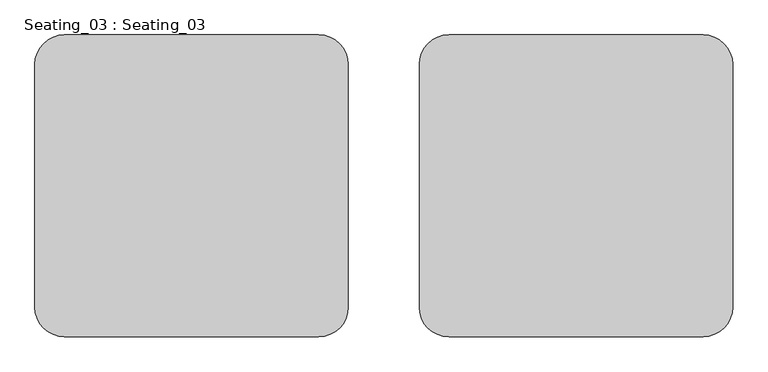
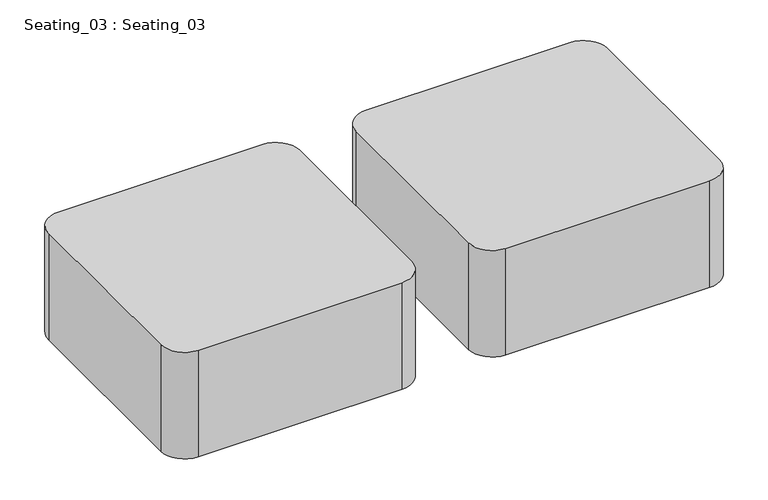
"""IFC4 building model written with IfcOpenShell, lengths in millimetres: furniture geometry, Seating_03 : Seating_03."""

from ifc_helpers import new_model, si_unit, point, frame, frame_2d, origin, place, context, project, spatial, polyline, circle_curve, trimmed, segment, composite_curve, outline, extrude, source, transform, mapped, element, save


def seating_03_seating_03_443b17d1(model_context):
    return source(origin(), model_context, "Body", "SweptSolid", [
        extrude(outline(composite_curve([segment(trimmed(circle_curve(frame_2d((817.8535683, 22202.5919371)), 100.0), [point((817.8535683, 22302.5919371))], [point((917.8535683, 22202.5919371))], False, "CARTESIAN"), True, "CONTINUOUS"), segment(polyline([(917.8535683, 22202.5919371), (917.8535683, 21382.5919371)]), True, "CONTINUOUS"), segment(trimmed(circle_curve(frame_2d((817.8535683, 21382.5919371)), 100.0), [point((917.8535683, 21382.5919371))], [point((817.8535683, 21282.5919371))], False, "CARTESIAN"), True, "CONTINUOUS"), segment(polyline([(817.8535683, 21282.5919371), (-42.1464317, 21282.5919371)]), True, "CONTINUOUS"), segment(trimmed(circle_curve(frame_2d((-42.1464317, 21382.5919371)), 100.0), [point((-42.1464317, 21282.5919371))], [point((-142.1464317, 21382.5919371))], False, "CARTESIAN"), True, "CONTINUOUS"), segment(polyline([(-142.1464317, 21382.5919371), (-142.1464317, 22202.5919371)]), True, "CONTINUOUS"), segment(trimmed(circle_curve(frame_2d((-42.1464317, 22202.5919371)), 100.0), [point((-142.1464317, 22202.5919371))], [point((-42.1464317, 22302.5919371))], False, "CARTESIAN"), True, "CONTINUOUS"), segment(polyline([(-42.1464317, 22302.5919371), (817.8535683, 22302.5919371)]), True, "CONTINUOUS")], self_intersect=False)), frame((0.0, 0.0, 3400.0), z_axis=(0.0, 0.0, 1.0), x_axis=(1.0, 0.0, 0.0)), (0.0, 0.0, 1.0), 476.2960418),
        extrude(outline(composite_curve([segment(trimmed(circle_curve(frame_2d((-482.1464317, 22202.5919371)), 100.0), [point((-482.1464317, 22302.5919371))], [point((-382.1464317, 22202.5919371))], False, "CARTESIAN"), True, "CONTINUOUS"), segment(polyline([(-382.1464317, 22202.5919371), (-382.1464317, 21382.5919371)]), True, "CONTINUOUS"), segment(trimmed(circle_curve(frame_2d((-482.1464317, 21382.5919371)), 100.0), [point((-382.1464317, 21382.5919371))], [point((-482.1464317, 21282.5919371))], False, "CARTESIAN"), True, "CONTINUOUS"), segment(polyline([(-482.1464317, 21282.5919371), (-1342.1464317, 21282.5919371)]), True, "CONTINUOUS"), segment(trimmed(circle_curve(frame_2d((-1342.1464317, 21382.5919371)), 100.0), [point((-1342.1464317, 21282.5919371))], [point((-1442.1464317, 21382.5919371))], False, "CARTESIAN"), True, "CONTINUOUS"), segment(polyline([(-1442.1464317, 21382.5919371), (-1442.1464317, 22202.5919371)]), True, "CONTINUOUS"), segment(trimmed(circle_curve(frame_2d((-1342.1464317, 22202.5919371)), 100.0), [point((-1442.1464317, 22202.5919371))], [point((-1342.1464317, 22302.5919371))], False, "CARTESIAN"), True, "CONTINUOUS"), segment(polyline([(-1342.1464317, 22302.5919371), (-482.1464317, 22302.5919371)]), True, "CONTINUOUS")], self_intersect=False)), frame((0.0, 0.0, 3400.0), z_axis=(0.0, 0.0, 1.0), x_axis=(1.0, 0.0, 0.0)), (0.0, 0.0, 1.0), 476.2960418),
    ])


if __name__ == "__main__":
    model = new_model("IFC4")
    model_context = context("Model", 3, world=origin())
    ifc_project = project(units=[si_unit("LENGTHUNIT", "METRE", prefix="MILLI")], contexts=[model_context])
    site = spatial("IfcSite", under=ifc_project)
    building = spatial("IfcBuilding", under=site)
    placement = place(None, origin())
    seating_03_seating_03_shape = seating_03_seating_03_443b17d1(model_context)
    element("IfcFurniture", 1, ObjectType="Seating_03 : Seating_03", at=placement, inside=building, context=model_context, shape_type="MappedRepresentation", body=[
        mapped(seating_03_seating_03_shape, transform((0.0, 0.0, 0.0), x_axis=(1.0, 0.0, 0.0), y_axis=(0.0, 1.0, 0.0), z_axis=(0.0, 0.0, 1.0))),
    ])
    save(model, "model.ifc")
